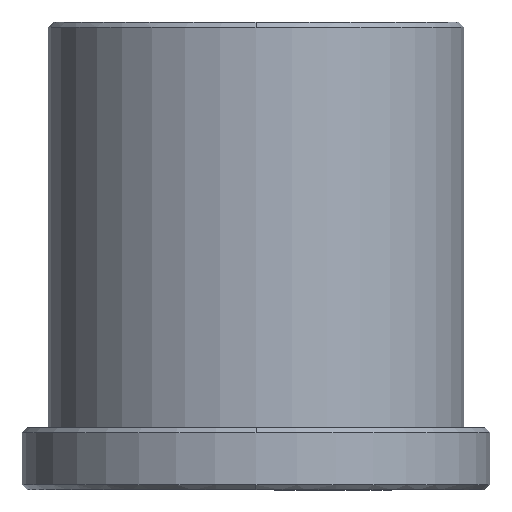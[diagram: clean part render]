
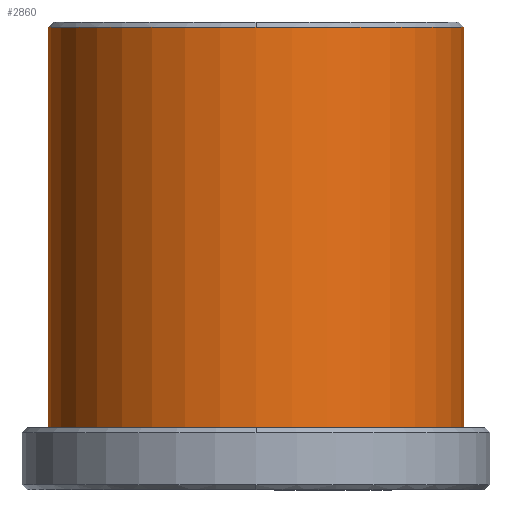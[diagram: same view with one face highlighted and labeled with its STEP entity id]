
A CAD part, front view. The second image highlights one B-rep face of the part: STEP entity #2860.
In plain terms, the highlighted cylindrical face has radius 20 mm (diameter 40 mm), a partial arc.
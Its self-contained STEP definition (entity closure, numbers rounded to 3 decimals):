
#2659=CARTESIAN_POINT('Vertex',(20.,0.,44.5)) ;
#2683=CARTESIAN_POINT('Vertex',(-20.,0.,44.5)) ;
#2707=CARTESIAN_POINT('Vertex',(0.,-20.,44.5)) ;
#2710=CARTESIAN_POINT('Axis2P3D Location',(0.,0.,44.5)) ;
#2727=CARTESIAN_POINT('Axis2P3D Location',(0.,0.,44.5)) ;
#2816=CARTESIAN_POINT('Line Origine',(20.,0.,-2.25)) ;
#2820=CARTESIAN_POINT('Vertex',(20.,0.,6.)) ;
#2827=CARTESIAN_POINT('Vertex',(-20.,0.,6.)) ;
#2830=CARTESIAN_POINT('Line Origine',(-20.,0.,-2.25)) ;
#2843=CARTESIAN_POINT('Axis2P3D Location',(0.,0.,-2.25)) ;
#2848=CARTESIAN_POINT('Axis2P3D Location',(0.,0.,6.)) ;
#2711=DIRECTION('Axis2P3D Direction',(0.,0.,-1.)) ;
#2728=DIRECTION('Axis2P3D Direction',(0.,0.,-1.)) ;
#2817=DIRECTION('Vector Direction',(0.,0.,1.)) ;
#2831=DIRECTION('Vector Direction',(0.,0.,1.)) ;
#2844=DIRECTION('Axis2P3D Direction',(0.,0.,1.)) ;
#2845=DIRECTION('Axis2P3D XDirection',(-1.,0.,0.)) ;
#2849=DIRECTION('Axis2P3D Direction',(0.,0.,1.)) ;
#2712=AXIS2_PLACEMENT_3D('Circle Axis2P3D',#2710,#2711,$) ;
#2729=AXIS2_PLACEMENT_3D('Circle Axis2P3D',#2727,#2728,$) ;
#2846=AXIS2_PLACEMENT_3D('Cylinder Axis2P3D',#2843,#2844,#2845) ;
#2850=AXIS2_PLACEMENT_3D('Circle Axis2P3D',#2848,#2849,$) ;
#2854=ORIENTED_EDGE('',*,*,#2834,.T.) ;
#2855=ORIENTED_EDGE('',*,*,#2852,.F.) ;
#2856=ORIENTED_EDGE('',*,*,#2822,.F.) ;
#2857=ORIENTED_EDGE('',*,*,#2731,.T.) ;
#2858=ORIENTED_EDGE('',*,*,#2714,.T.) ;
#2818=VECTOR('Line Direction',#2817,1.) ;
#2832=VECTOR('Line Direction',#2831,1.) ;
#2860=ADVANCED_FACE('MANIFOLD_SOLID_BREP #2272',(#2859),#2847,.T.) ;
#2713=CIRCLE('generated circle',#2712,20.) ;
#2730=CIRCLE('generated circle',#2729,20.) ;
#2851=CIRCLE('generated circle',#2850,20.) ;
#2847=CYLINDRICAL_SURFACE('generated cylinder',#2846,20.) ;
#2714=EDGE_CURVE('',#2708,#2684,#2713,.T.) ;
#2731=EDGE_CURVE('',#2660,#2708,#2730,.T.) ;
#2822=EDGE_CURVE('',#2660,#2821,#2819,.F.) ;
#2834=EDGE_CURVE('',#2684,#2828,#2833,.F.) ;
#2852=EDGE_CURVE('',#2821,#2828,#2851,.F.) ;
#2853=EDGE_LOOP('',(#2854,#2855,#2856,#2857,#2858)) ;
#2859=FACE_OUTER_BOUND('',#2853,.T.) ;
#2819=LINE('Line',#2816,#2818) ;
#2833=LINE('Line',#2830,#2832) ;
#2660=VERTEX_POINT('',#2659) ;
#2684=VERTEX_POINT('',#2683) ;
#2708=VERTEX_POINT('',#2707) ;
#2821=VERTEX_POINT('',#2820) ;
#2828=VERTEX_POINT('',#2827) ;
